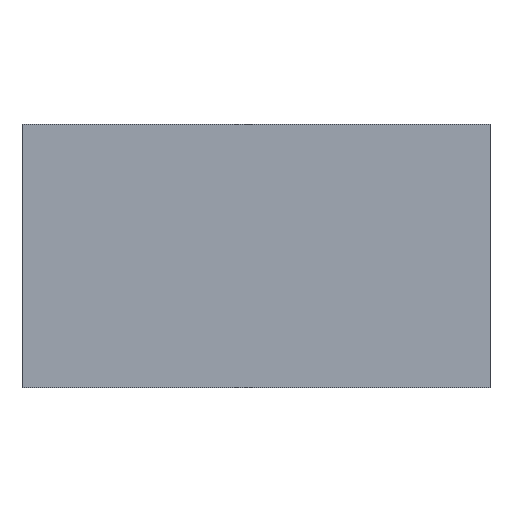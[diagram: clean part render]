
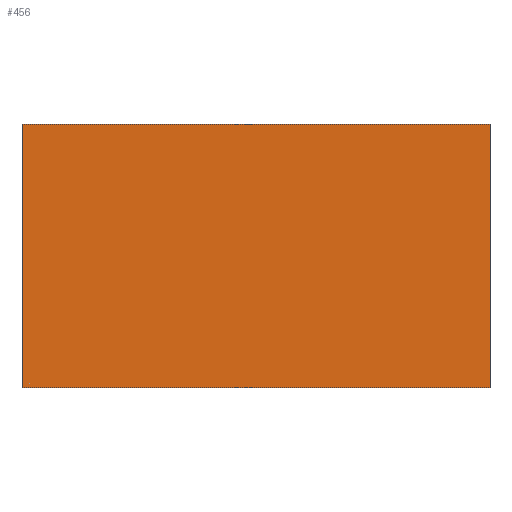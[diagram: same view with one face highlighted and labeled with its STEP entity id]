
A CAD part, front view. The second image highlights one B-rep face of the part: STEP entity #456.
In plain terms, the highlighted planar face has unit normal (0, -1, 0).
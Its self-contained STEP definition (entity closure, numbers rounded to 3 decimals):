
#70 = EDGE_LOOP ( 'NONE', ( #105, #199, #203, #201 ) ) ;
#105 = ORIENTED_EDGE ( 'NONE', *, *, #388, .T. ) ;
#199 = ORIENTED_EDGE ( 'NONE', *, *, #389, .F. ) ;
#201 = ORIENTED_EDGE ( 'NONE', *, *, #385, .T. ) ;
#203 = ORIENTED_EDGE ( 'NONE', *, *, #390, .F. ) ;
#219 = VECTOR ( 'NONE', #885, 1000. ) ;
#222 = LINE ( 'NONE', #886, #234 ) ;
#224 = LINE ( 'NONE', #887, #219 ) ;
#227 = LINE ( 'NONE', #871, #230 ) ;
#229 = LINE ( 'NONE', #867, #232 ) ;
#230 = VECTOR ( 'NONE', #870, 1000. ) ;
#232 = VECTOR ( 'NONE', #861, 1000. ) ;
#234 = VECTOR ( 'NONE', #860, 1000. ) ;
#293 = FACE_OUTER_BOUND ( 'NONE', #70, .T. ) ;
#351 = VERTEX_POINT ( 'NONE', #882 ) ;
#352 = VERTEX_POINT ( 'NONE', #874 ) ;
#354 = VERTEX_POINT ( 'NONE', #863 ) ;
#382 = VERTEX_POINT ( 'NONE', #838 ) ;
#385 = EDGE_CURVE ( 'NONE', #382, #354, #224, .T. ) ;
#388 = EDGE_CURVE ( 'NONE', #354, #351, #227, .T. ) ;
#389 = EDGE_CURVE ( 'NONE', #352, #351, #229, .T. ) ;
#390 = EDGE_CURVE ( 'NONE', #382, #352, #222, .T. ) ;
#424 = AXIS2_PLACEMENT_3D ( 'NONE', #537, #542, #543 ) ;
#456 = ADVANCED_FACE ( 'NONE', ( #293 ), #539, .F. ) ;
#537 = CARTESIAN_POINT ( 'NONE',  ( -15.1, -72.5, 17. ) ) ;
#539 = PLANE ( 'NONE',  #424 ) ;
#542 = DIRECTION ( 'NONE',  ( 0., 1., 0. ) ) ;
#543 = DIRECTION ( 'NONE',  ( 0., 0., 1. ) ) ;
#838 = CARTESIAN_POINT ( 'NONE',  ( -15.1, -72.5, 17. ) ) ;
#860 = DIRECTION ( 'NONE',  ( 1., 0., 0. ) ) ;
#861 = DIRECTION ( 'NONE',  ( 0., 0., -1. ) ) ;
#863 = CARTESIAN_POINT ( 'NONE',  ( -15.1, -72.5, 0. ) ) ;
#867 = CARTESIAN_POINT ( 'NONE',  ( 15.1, -72.5, 17. ) ) ;
#870 = DIRECTION ( 'NONE',  ( 1., 0., 0. ) ) ;
#871 = CARTESIAN_POINT ( 'NONE',  ( -15.1, -72.5, 0. ) ) ;
#874 = CARTESIAN_POINT ( 'NONE',  ( 15.1, -72.5, 17. ) ) ;
#882 = CARTESIAN_POINT ( 'NONE',  ( 15.1, -72.5, 0. ) ) ;
#885 = DIRECTION ( 'NONE',  ( 0., 0., -1. ) ) ;
#886 = CARTESIAN_POINT ( 'NONE',  ( -15.1, -72.5, 17. ) ) ;
#887 = CARTESIAN_POINT ( 'NONE',  ( -15.1, -72.5, 17. ) ) ;
